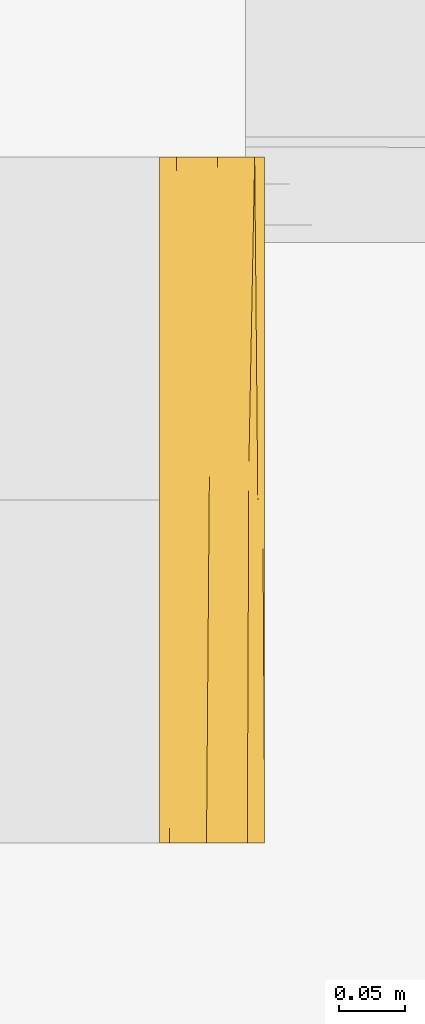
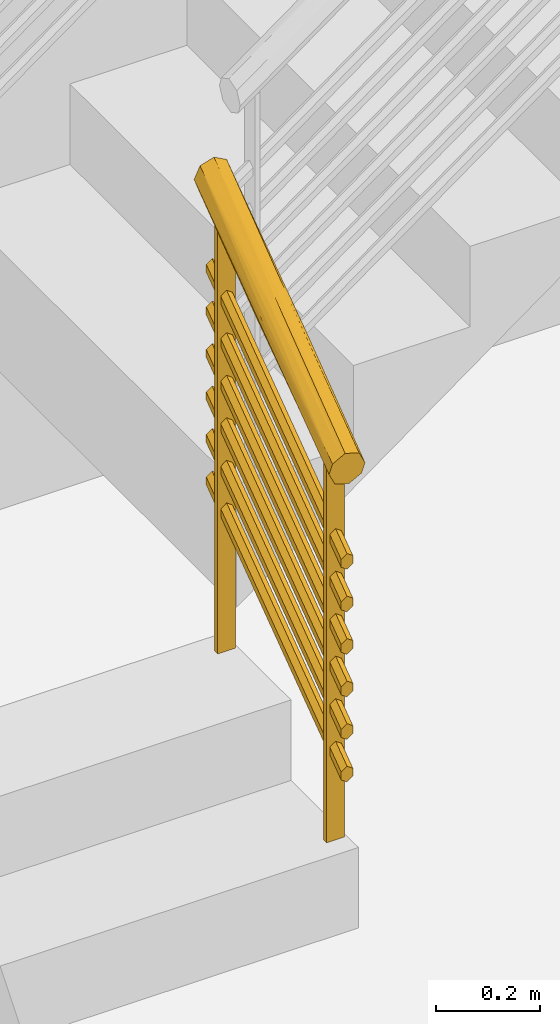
# One storey, part 16 of 20: 1 railing, 1 element without a shape of its own.
"""IFC2X3 building model written with IfcOpenShell, lengths in metres."""

from ifc_helpers import new_model, entity, si_unit, converted_unit, derived_unit, direction, frame, origin, place, context, subcontext, project, spatial, faceted_brep, element, aggregate, save


model = new_model("IFC2X3")

# Units and contexts
model_context = context("Model", 3, precision=1e-05, world=origin(), true_north=direction((6.12303176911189e-17, 1.0)))
body_context = subcontext(model_context, "Body", "Model", "MODEL_VIEW")
ifc_project = project(units=[si_unit("LENGTHUNIT", "METRE"), si_unit("AREAUNIT", "SQUARE_METRE"), si_unit("VOLUMEUNIT", "CUBIC_METRE"), converted_unit("PLANEANGLEUNIT", "DEGREE", entity("IfcRatioMeasure", 0.0174532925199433), si_unit("PLANEANGLEUNIT", "RADIAN"), dimensions=[0, 0, 0, 0, 0, 0, 0]), si_unit("MASSUNIT", "GRAM", prefix="KILO"), derived_unit("MASSDENSITYUNIT", [(si_unit("MASSUNIT", "GRAM", prefix="KILO"), 1), (si_unit("LENGTHUNIT", "METRE"), -3)]), derived_unit("MOMENTOFINERTIAUNIT", [(si_unit("LENGTHUNIT", "METRE"), 4)]), si_unit("TIMEUNIT", "SECOND"), si_unit("FREQUENCYUNIT", "HERTZ"), si_unit("THERMODYNAMICTEMPERATUREUNIT", "DEGREE_CELSIUS"), derived_unit("THERMALTRANSMITTANCEUNIT", [(si_unit("MASSUNIT", "GRAM", prefix="KILO"), 1), (si_unit("THERMODYNAMICTEMPERATUREUNIT", "KELVIN"), -1), (si_unit("TIMEUNIT", "SECOND"), -3)]), derived_unit("VOLUMETRICFLOWRATEUNIT", [(si_unit("LENGTHUNIT", "METRE"), 3), (si_unit("TIMEUNIT", "SECOND"), -1)]), si_unit("ELECTRICCURRENTUNIT", "AMPERE"), si_unit("ELECTRICVOLTAGEUNIT", "VOLT"), si_unit("POWERUNIT", "WATT"), si_unit("FORCEUNIT", "NEWTON", prefix="KILO"), si_unit("ILLUMINANCEUNIT", "LUX"), si_unit("LUMINOUSFLUXUNIT", "LUMEN"), si_unit("LUMINOUSINTENSITYUNIT", "CANDELA"), derived_unit("USERDEFINED", [(si_unit("MASSUNIT", "GRAM", prefix="KILO"), -1), (si_unit("LENGTHUNIT", "METRE"), -2), (si_unit("TIMEUNIT", "SECOND"), 3), (si_unit("LUMINOUSFLUXUNIT", "LUMEN"), 1)]), derived_unit("LINEARVELOCITYUNIT", [(si_unit("LENGTHUNIT", "METRE"), 1), (si_unit("TIMEUNIT", "SECOND"), -1)]), si_unit("PRESSUREUNIT", "PASCAL"), derived_unit("USERDEFINED", [(si_unit("LENGTHUNIT", "METRE"), -2), (si_unit("MASSUNIT", "GRAM", prefix="KILO"), 1), (si_unit("TIMEUNIT", "SECOND"), -2)]), derived_unit("LINEARFORCEUNIT", [(si_unit("MASSUNIT", "GRAM", prefix="KILO"), 1), (si_unit("LENGTHUNIT", "METRE"), 1), (si_unit("TIMEUNIT", "SECOND"), -2), (si_unit("LENGTHUNIT", "METRE"), -1)]), derived_unit("PLANARFORCEUNIT", [(si_unit("MASSUNIT", "GRAM", prefix="KILO"), 1), (si_unit("LENGTHUNIT", "METRE"), 1), (si_unit("TIMEUNIT", "SECOND"), -2), (si_unit("LENGTHUNIT", "METRE"), -2)])], contexts=[model_context])

# Site, building, storey
site_placement = place(None, origin())
site = spatial("IfcSite", under=ifc_project, at=site_placement, Name="Surface", CompositionType="ELEMENT")
building_placement = place(site_placement, origin())
building = spatial("IfcBuilding", under=site, at=building_placement, CompositionType="ELEMENT")
storey_placement = place(building_placement, origin())
storey = spatial("IfcBuildingStorey", under=building, at=storey_placement, Name="Niveau rdc", CompositionType="ELEMENT", Elevation=-1.94916083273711e-14)

# Stair, railing
stair_placement = place(storey_placement, origin())
stair = element("IfcStair", 1, at=stair_placement, inside=storey, Name="Escalier coulé sur place:Escalier", ObjectType="Escalier coulé sur place:Monobloc", ShapeType="NOTDEFINED")
railing_placement = place(stair_placement, frame((2.90498458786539, 5.44723837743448, 0.189285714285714)))
railing = element("IfcRailing", 2, at=railing_placement, Name="Garde-corps:Type Bateau", ObjectType="Garde-corps:Type Bateau", PredefinedType="NOTDEFINED", context=body_context, shape_type="Brep", body=[
    faceted_brep([(0.0215952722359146, 0.476000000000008, 1.20487235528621), (0.0215952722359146, 0.464000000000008, 1.20487235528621), (0.0615952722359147, 0.464000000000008, 1.20487235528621), (0.0615952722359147, 0.476000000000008, 1.20487235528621), (0.0215952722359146, 0.476000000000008, 0.189285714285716), (0.0615952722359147, 0.476000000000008, 0.189285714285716), (0.0615952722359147, 0.464000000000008, 0.189285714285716), (0.0215952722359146, 0.464000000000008, 0.189285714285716)], [[[0, 1, 2, 3]], [[4, 5, 6, 7]], [[1, 0, 4, 7]], [[2, 1, 7, 6]], [[3, 2, 6, 5]], [[0, 3, 5, 4]]]),
    faceted_brep([(0.0215952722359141, 0.0560000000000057, 0.899103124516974), (0.0215952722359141, 0.0440000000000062, 0.899103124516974), (0.0615952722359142, 0.0440000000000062, 0.899103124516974), (0.0615952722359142, 0.0560000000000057, 0.899103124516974), (0.0215952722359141, 0.0560000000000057, 0.0), (0.0615952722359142, 0.0560000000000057, 0.0), (0.0615952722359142, 0.0440000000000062, 0.0), (0.0215952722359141, 0.0440000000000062, 0.0)], [[[0, 1, 2, 3]], [[4, 5, 6, 7]], [[1, 0, 4, 7]], [[2, 1, 7, 6]], [[3, 2, 6, 5]], [[0, 3, 5, 4]]]),
    faceted_brep([(0.0545856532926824, 0.0, 0.672168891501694), (0.0545856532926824, 0.0, 0.676807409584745), (0.0545856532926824, 0.0, 0.681445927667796), (0.0545856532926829, 0.0, 0.686084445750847), (0.0545856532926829, 0.0, 0.690722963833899), (0.0513380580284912, 0.0, 0.693042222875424), (0.0480904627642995, 0.0, 0.69536148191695), (0.0448428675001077, 0.0, 0.697680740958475), (0.041595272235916, 0.0, 0.700000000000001), (0.0380732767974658, 0.0, 0.697484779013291), (0.0351000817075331, 0.0, 0.69536148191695), (0.0318524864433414, 0.0, 0.693042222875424), (0.0286048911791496, 0.0, 0.690722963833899), (0.0286048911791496, 0.0, 0.686084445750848), (0.0286048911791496, 0.0, 0.681445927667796), (0.0286048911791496, 0.0, 0.676807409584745), (0.0286048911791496, 0.0, 0.672168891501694), (0.0318524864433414, 0.0, 0.669849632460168), (0.0351000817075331, 0.0, 0.667530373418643), (0.0380732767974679, 0.0, 0.665407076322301), (0.041595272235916, 0.0, 0.662891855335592), (0.0451172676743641, 0.0, 0.665407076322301), (0.0486392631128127, 0.0, 0.667922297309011), (0.0516124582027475, 0.0, 0.670045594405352), (0.0383476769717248, 0.520000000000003, 1.04378254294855), (0.0351000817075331, 0.520000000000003, 1.04610180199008), (0.0318524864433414, 0.520000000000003, 1.0484210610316), (0.0286048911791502, 0.520000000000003, 1.05074032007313), (0.0286048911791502, 0.520000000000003, 1.05537883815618), (0.0286048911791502, 0.520000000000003, 1.06001735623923), (0.0286048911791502, 0.520000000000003, 1.06465587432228), (0.0286048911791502, 0.520000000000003, 1.06929439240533), (0.0315780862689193, 0.520000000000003, 1.07141768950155), (0.034551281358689, 0.520000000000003, 1.07354098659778), (0.0380732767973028, 0.520000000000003, 1.07605620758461), (0.0415952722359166, 0.520000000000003, 1.07857142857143), (0.0451172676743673, 0.520000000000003, 1.07605620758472), (0.0480904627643, 0.520000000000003, 1.07393291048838), (0.0513380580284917, 0.520000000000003, 1.07161365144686), (0.0545856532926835, 0.520000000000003, 1.06929439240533), (0.0545856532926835, 0.520000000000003, 1.06465587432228), (0.0545856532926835, 0.520000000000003, 1.06001735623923), (0.0545856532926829, 0.520000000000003, 1.05537883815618), (0.0545856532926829, 0.520000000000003, 1.05074032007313), (0.0513380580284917, 0.520000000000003, 1.0484210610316), (0.0480904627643, 0.520000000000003, 1.04610180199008), (0.0451172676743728, 0.520000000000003, 1.04397850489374), (0.0415952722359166, 0.520000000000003, 1.04146328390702)], [[[0, 1, 2, 3, 4, 5, 6, 7, 8, 9, 10, 11, 12, 13, 14, 15, 16, 17, 18, 19, 20, 21, 22, 23]], [[24, 25, 26, 27, 28, 29, 30, 31, 32, 33, 34, 35, 36, 37, 38, 39, 40, 41, 42, 43, 44, 45, 46, 47]], [[40, 39, 4, 3, 2, 1, 0, 43, 42, 41]], [[45, 44, 43, 0, 23, 22, 21, 20, 47, 46]], [[35, 8, 7, 6, 5, 4, 39, 38, 37, 36]], [[12, 11, 10, 9, 8, 35, 34, 33, 32, 31]], [[18, 17, 16, 27, 26, 25, 24, 47, 20, 19]], [[15, 14, 13, 12, 31, 30, 29, 28, 27, 16]]]),
    faceted_brep([(0.0545856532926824, 0.0, 0.572168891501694), (0.0545856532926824, 0.0, 0.576807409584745), (0.0545856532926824, 0.0, 0.581445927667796), (0.0545856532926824, 0.0, 0.586084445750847), (0.0545856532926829, 0.0, 0.590722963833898), (0.0513380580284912, 0.0, 0.593042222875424), (0.0480904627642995, 0.0, 0.59536148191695), (0.0448428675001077, 0.0, 0.597680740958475), (0.041595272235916, 0.0, 0.600000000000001), (0.0380732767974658, 0.0, 0.59748477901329), (0.0351000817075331, 0.0, 0.59536148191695), (0.0318524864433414, 0.0, 0.593042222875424), (0.0286048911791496, 0.0, 0.590722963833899), (0.0286048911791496, 0.0, 0.586084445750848), (0.0286048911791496, 0.0, 0.581445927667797), (0.0286048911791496, 0.0, 0.576807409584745), (0.0286048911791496, 0.0, 0.572168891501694), (0.0318524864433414, 0.0, 0.569849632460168), (0.0351000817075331, 0.0, 0.567530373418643), (0.0380732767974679, 0.0, 0.565407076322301), (0.041595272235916, 0.0, 0.562891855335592), (0.0451172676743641, 0.0, 0.565407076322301), (0.0486392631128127, 0.0, 0.567922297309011), (0.0516124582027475, 0.0, 0.570045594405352), (0.0383476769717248, 0.520000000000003, 0.943782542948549), (0.0351000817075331, 0.520000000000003, 0.946101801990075), (0.0318524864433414, 0.520000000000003, 0.948421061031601), (0.0286048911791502, 0.520000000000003, 0.950740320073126), (0.0286048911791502, 0.520000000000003, 0.955378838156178), (0.0286048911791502, 0.520000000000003, 0.960017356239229), (0.0286048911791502, 0.520000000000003, 0.96465587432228), (0.0286048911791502, 0.520000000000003, 0.969294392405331), (0.0315780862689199, 0.520000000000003, 0.971417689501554), (0.034551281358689, 0.520000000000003, 0.973540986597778), (0.0380732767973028, 0.520000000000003, 0.976056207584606), (0.0415952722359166, 0.520000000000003, 0.978571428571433), (0.0451172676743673, 0.520000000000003, 0.976056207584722), (0.0480904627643, 0.520000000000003, 0.973932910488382), (0.0513380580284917, 0.520000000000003, 0.971613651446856), (0.0545856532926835, 0.520000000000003, 0.969294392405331), (0.0545856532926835, 0.520000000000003, 0.964655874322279), (0.0545856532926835, 0.520000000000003, 0.960017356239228), (0.0545856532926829, 0.520000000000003, 0.955378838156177), (0.0545856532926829, 0.520000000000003, 0.950740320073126), (0.0513380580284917, 0.520000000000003, 0.948421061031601), (0.0480904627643, 0.520000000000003, 0.946101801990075), (0.0451172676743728, 0.520000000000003, 0.943978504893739), (0.0415952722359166, 0.520000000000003, 0.941463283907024)], [[[0, 1, 2, 3, 4, 5, 6, 7, 8, 9, 10, 11, 12, 13, 14, 15, 16, 17, 18, 19, 20, 21, 22, 23]], [[24, 25, 26, 27, 28, 29, 30, 31, 32, 33, 34, 35, 36, 37, 38, 39, 40, 41, 42, 43, 44, 45, 46, 47]], [[40, 39, 4, 3, 2, 1, 0, 43, 42, 41]], [[45, 44, 43, 0, 23, 22, 21, 20, 47, 46]], [[35, 8, 7, 6, 5, 4, 39, 38, 37, 36]], [[12, 11, 10, 9, 8, 35, 34, 33, 32, 31]], [[18, 17, 16, 27, 26, 25, 24, 47, 20, 19]], [[15, 14, 13, 12, 31, 30, 29, 28, 27, 16]]]),
    faceted_brep([(0.0545856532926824, 0.0, 0.472168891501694), (0.0545856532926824, 0.0, 0.476807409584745), (0.0545856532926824, 0.0, 0.481445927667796), (0.0545856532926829, 0.0, 0.486084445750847), (0.0545856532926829, 0.0, 0.490722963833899), (0.0513380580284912, 0.0, 0.493042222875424), (0.0480904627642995, 0.0, 0.49536148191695), (0.0448428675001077, 0.0, 0.497680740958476), (0.041595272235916, 0.0, 0.500000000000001), (0.0380732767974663, 0.0, 0.497484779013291), (0.0351000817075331, 0.0, 0.49536148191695), (0.0318524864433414, 0.0, 0.493042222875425), (0.0286048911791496, 0.0, 0.490722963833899), (0.0286048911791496, 0.0, 0.486084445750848), (0.0286048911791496, 0.0, 0.481445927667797), (0.0286048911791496, 0.0, 0.476807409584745), (0.0286048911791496, 0.0, 0.472168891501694), (0.0318524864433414, 0.0, 0.469849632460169), (0.0351000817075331, 0.0, 0.467530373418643), (0.0380732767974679, 0.0, 0.465407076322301), (0.041595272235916, 0.0, 0.462891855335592), (0.0451172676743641, 0.0, 0.465407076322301), (0.0486392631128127, 0.0, 0.467922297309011), (0.0516124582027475, 0.0, 0.470045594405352), (0.0383476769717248, 0.520000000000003, 0.84378254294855), (0.0351000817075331, 0.520000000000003, 0.846101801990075), (0.0318524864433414, 0.520000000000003, 0.848421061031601), (0.0286048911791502, 0.520000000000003, 0.850740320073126), (0.0286048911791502, 0.520000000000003, 0.855378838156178), (0.0286048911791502, 0.520000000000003, 0.860017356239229), (0.0286048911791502, 0.520000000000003, 0.86465587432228), (0.0286048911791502, 0.520000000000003, 0.869294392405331), (0.0315780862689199, 0.520000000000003, 0.871417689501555), (0.034551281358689, 0.520000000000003, 0.873540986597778), (0.0380732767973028, 0.520000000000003, 0.876056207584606), (0.0415952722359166, 0.520000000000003, 0.878571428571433), (0.0451172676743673, 0.520000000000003, 0.876056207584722), (0.0480904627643, 0.520000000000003, 0.873932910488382), (0.0513380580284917, 0.520000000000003, 0.871613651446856), (0.0545856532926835, 0.520000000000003, 0.869294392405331), (0.0545856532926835, 0.520000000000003, 0.86465587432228), (0.0545856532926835, 0.520000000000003, 0.860017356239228), (0.0545856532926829, 0.520000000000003, 0.855378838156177), (0.0545856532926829, 0.520000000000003, 0.850740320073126), (0.0513380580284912, 0.520000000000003, 0.848421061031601), (0.0480904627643, 0.520000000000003, 0.846101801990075), (0.0451172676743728, 0.520000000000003, 0.843978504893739), (0.0415952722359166, 0.520000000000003, 0.841463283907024)], [[[0, 1, 2, 3, 4, 5, 6, 7, 8, 9, 10, 11, 12, 13, 14, 15, 16, 17, 18, 19, 20, 21, 22, 23]], [[24, 25, 26, 27, 28, 29, 30, 31, 32, 33, 34, 35, 36, 37, 38, 39, 40, 41, 42, 43, 44, 45, 46, 47]], [[40, 39, 4, 3, 2, 1, 0, 43, 42, 41]], [[45, 44, 43, 0, 23, 22, 21, 20, 47, 46]], [[35, 8, 7, 6, 5, 4, 39, 38, 37, 36]], [[12, 11, 10, 9, 8, 35, 34, 33, 32, 31]], [[18, 17, 16, 27, 26, 25, 24, 47, 20, 19]], [[15, 14, 13, 12, 31, 30, 29, 28, 27, 16]]]),
    faceted_brep([(0.0545856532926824, 0.0, 0.372168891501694), (0.0545856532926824, 0.0, 0.376807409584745), (0.0545856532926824, 0.0, 0.381445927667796), (0.0545856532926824, 0.0, 0.386084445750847), (0.0545856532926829, 0.0, 0.390722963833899), (0.0513380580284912, 0.0, 0.393042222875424), (0.0480904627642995, 0.0, 0.39536148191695), (0.0448428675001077, 0.0, 0.397680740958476), (0.041595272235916, 0.0, 0.400000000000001), (0.0380732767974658, 0.0, 0.397484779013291), (0.0351000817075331, 0.0, 0.39536148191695), (0.0318524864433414, 0.0, 0.393042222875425), (0.0286048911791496, 0.0, 0.390722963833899), (0.0286048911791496, 0.0, 0.386084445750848), (0.0286048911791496, 0.0, 0.381445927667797), (0.0286048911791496, 0.0, 0.376807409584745), (0.0286048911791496, 0.0, 0.372168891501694), (0.0318524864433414, 0.0, 0.369849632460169), (0.0351000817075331, 0.0, 0.367530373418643), (0.0380732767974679, 0.0, 0.365407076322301), (0.041595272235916, 0.0, 0.362891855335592), (0.0451172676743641, 0.0, 0.365407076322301), (0.0486392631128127, 0.0, 0.367922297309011), (0.0516124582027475, 0.0, 0.370045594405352), (0.0383476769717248, 0.520000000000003, 0.74378254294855), (0.0351000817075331, 0.520000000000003, 0.746101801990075), (0.0318524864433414, 0.520000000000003, 0.748421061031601), (0.0286048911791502, 0.520000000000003, 0.750740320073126), (0.0286048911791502, 0.520000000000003, 0.755378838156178), (0.0286048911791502, 0.520000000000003, 0.760017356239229), (0.0286048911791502, 0.520000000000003, 0.76465587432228), (0.0286048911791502, 0.520000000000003, 0.769294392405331), (0.0315780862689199, 0.520000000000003, 0.771417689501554), (0.034551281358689, 0.520000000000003, 0.773540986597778), (0.0380732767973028, 0.520000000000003, 0.776056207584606), (0.0415952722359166, 0.520000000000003, 0.778571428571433), (0.0451172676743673, 0.520000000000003, 0.776056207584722), (0.0480904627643, 0.520000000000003, 0.773932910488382), (0.0513380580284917, 0.520000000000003, 0.771613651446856), (0.0545856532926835, 0.520000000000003, 0.769294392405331), (0.0545856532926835, 0.520000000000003, 0.76465587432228), (0.0545856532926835, 0.520000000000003, 0.760017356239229), (0.0545856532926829, 0.520000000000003, 0.755378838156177), (0.0545856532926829, 0.520000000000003, 0.750740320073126), (0.0513380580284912, 0.520000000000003, 0.748421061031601), (0.0480904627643, 0.520000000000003, 0.746101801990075), (0.0451172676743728, 0.520000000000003, 0.743978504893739), (0.0415952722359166, 0.520000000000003, 0.741463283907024)], [[[0, 1, 2, 3, 4, 5, 6, 7, 8, 9, 10, 11, 12, 13, 14, 15, 16, 17, 18, 19, 20, 21, 22, 23]], [[24, 25, 26, 27, 28, 29, 30, 31, 32, 33, 34, 35, 36, 37, 38, 39, 40, 41, 42, 43, 44, 45, 46, 47]], [[40, 39, 4, 3, 2, 1, 0, 43, 42, 41]], [[45, 44, 43, 0, 23, 22, 21, 20, 47, 46]], [[35, 8, 7, 6, 5, 4, 39, 38, 37, 36]], [[12, 11, 10, 9, 8, 35, 34, 33, 32, 31]], [[18, 17, 16, 27, 26, 25, 24, 47, 20, 19]], [[15, 14, 13, 12, 31, 30, 29, 28, 27, 16]]]),
    faceted_brep([(0.0545856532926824, 0.0, 0.272168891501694), (0.0545856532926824, 0.0, 0.276807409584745), (0.0545856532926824, 0.0, 0.281445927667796), (0.0545856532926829, 0.0, 0.286084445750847), (0.0545856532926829, 0.0, 0.290722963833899), (0.0513380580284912, 0.0, 0.293042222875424), (0.0480904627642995, 0.0, 0.29536148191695), (0.0448428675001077, 0.0, 0.297680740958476), (0.041595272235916, 0.0, 0.300000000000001), (0.0380732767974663, 0.0, 0.297484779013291), (0.0351000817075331, 0.0, 0.29536148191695), (0.0318524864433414, 0.0, 0.293042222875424), (0.0286048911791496, 0.0, 0.290722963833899), (0.0286048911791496, 0.0, 0.286084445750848), (0.0286048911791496, 0.0, 0.281445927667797), (0.0286048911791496, 0.0, 0.276807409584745), (0.0286048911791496, 0.0, 0.272168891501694), (0.0318524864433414, 0.0, 0.269849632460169), (0.0351000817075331, 0.0, 0.267530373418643), (0.0380732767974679, 0.0, 0.265407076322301), (0.041595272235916, 0.0, 0.262891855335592), (0.0451172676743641, 0.0, 0.265407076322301), (0.0486392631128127, 0.0, 0.267922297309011), (0.0516124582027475, 0.0, 0.270045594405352), (0.0383476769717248, 0.520000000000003, 0.643782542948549), (0.0351000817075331, 0.520000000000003, 0.646101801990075), (0.0318524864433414, 0.520000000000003, 0.648421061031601), (0.0286048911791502, 0.520000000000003, 0.650740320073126), (0.0286048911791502, 0.520000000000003, 0.655378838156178), (0.0286048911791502, 0.520000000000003, 0.660017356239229), (0.0286048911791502, 0.520000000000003, 0.66465587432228), (0.0286048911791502, 0.520000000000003, 0.669294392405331), (0.0315780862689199, 0.520000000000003, 0.671417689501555), (0.034551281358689, 0.520000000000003, 0.673540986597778), (0.0380732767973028, 0.520000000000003, 0.676056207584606), (0.0415952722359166, 0.520000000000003, 0.678571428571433), (0.0451172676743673, 0.520000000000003, 0.676056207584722), (0.0480904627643, 0.520000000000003, 0.673932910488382), (0.0513380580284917, 0.520000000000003, 0.671613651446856), (0.0545856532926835, 0.520000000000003, 0.669294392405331), (0.0545856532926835, 0.520000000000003, 0.66465587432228), (0.0545856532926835, 0.520000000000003, 0.660017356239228), (0.0545856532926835, 0.520000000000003, 0.655378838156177), (0.0545856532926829, 0.520000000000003, 0.650740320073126), (0.0513380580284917, 0.520000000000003, 0.648421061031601), (0.0480904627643, 0.520000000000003, 0.646101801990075), (0.0451172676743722, 0.520000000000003, 0.643978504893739), (0.0415952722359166, 0.520000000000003, 0.641463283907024)], [[[0, 1, 2, 3, 4, 5, 6, 7, 8, 9, 10, 11, 12, 13, 14, 15, 16, 17, 18, 19, 20, 21, 22, 23]], [[24, 25, 26, 27, 28, 29, 30, 31, 32, 33, 34, 35, 36, 37, 38, 39, 40, 41, 42, 43, 44, 45, 46, 47]], [[40, 39, 4, 3, 2, 1, 0, 43, 42, 41]], [[45, 44, 43, 0, 23, 22, 21, 20, 47, 46]], [[35, 8, 7, 6, 5, 4, 39, 38, 37, 36]], [[12, 11, 10, 9, 8, 35, 34, 33, 32, 31]], [[18, 17, 16, 27, 26, 25, 24, 47, 20, 19]], [[15, 14, 13, 12, 31, 30, 29, 28, 27, 16]]]),
    faceted_brep([(0.0545856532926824, 0.0, 0.172168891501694), (0.0545856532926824, 0.0, 0.176807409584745), (0.0545856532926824, 0.0, 0.181445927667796), (0.0545856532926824, 0.0, 0.186084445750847), (0.0545856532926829, 0.0, 0.190722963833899), (0.0513380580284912, 0.0, 0.193042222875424), (0.0480904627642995, 0.0, 0.19536148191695), (0.0448428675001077, 0.0, 0.197680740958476), (0.041595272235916, 0.0, 0.200000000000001), (0.0380732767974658, 0.0, 0.197484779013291), (0.0351000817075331, 0.0, 0.19536148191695), (0.0318524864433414, 0.0, 0.193042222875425), (0.0286048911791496, 0.0, 0.190722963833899), (0.0286048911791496, 0.0, 0.186084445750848), (0.0286048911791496, 0.0, 0.181445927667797), (0.0286048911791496, 0.0, 0.176807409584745), (0.0286048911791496, 0.0, 0.172168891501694), (0.0318524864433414, 0.0, 0.169849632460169), (0.0351000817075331, 0.0, 0.167530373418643), (0.0380732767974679, 0.0, 0.165407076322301), (0.041595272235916, 0.0, 0.162891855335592), (0.0451172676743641, 0.0, 0.165407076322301), (0.0486392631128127, 0.0, 0.167922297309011), (0.0516124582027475, 0.0, 0.170045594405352), (0.0383476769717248, 0.520000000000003, 0.54378254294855), (0.0351000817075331, 0.520000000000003, 0.546101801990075), (0.0318524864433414, 0.520000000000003, 0.548421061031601), (0.0286048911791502, 0.520000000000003, 0.550740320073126), (0.0286048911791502, 0.520000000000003, 0.555378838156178), (0.0286048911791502, 0.520000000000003, 0.560017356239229), (0.0286048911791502, 0.520000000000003, 0.56465587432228), (0.0286048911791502, 0.520000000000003, 0.569294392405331), (0.0315780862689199, 0.520000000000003, 0.571417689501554), (0.034551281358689, 0.520000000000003, 0.573540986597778), (0.0380732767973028, 0.520000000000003, 0.576056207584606), (0.0415952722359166, 0.520000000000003, 0.578571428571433), (0.0451172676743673, 0.520000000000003, 0.576056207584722), (0.0480904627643, 0.520000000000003, 0.573932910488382), (0.0513380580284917, 0.520000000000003, 0.571613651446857), (0.0545856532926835, 0.520000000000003, 0.569294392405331), (0.0545856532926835, 0.520000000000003, 0.56465587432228), (0.0545856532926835, 0.520000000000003, 0.560017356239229), (0.0545856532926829, 0.520000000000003, 0.555378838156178), (0.0545856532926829, 0.520000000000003, 0.550740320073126), (0.0513380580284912, 0.520000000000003, 0.548421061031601), (0.0480904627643, 0.520000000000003, 0.546101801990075), (0.0451172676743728, 0.520000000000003, 0.543978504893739), (0.0415952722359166, 0.520000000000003, 0.541463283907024)], [[[0, 1, 2, 3, 4, 5, 6, 7, 8, 9, 10, 11, 12, 13, 14, 15, 16, 17, 18, 19, 20, 21, 22, 23]], [[24, 25, 26, 27, 28, 29, 30, 31, 32, 33, 34, 35, 36, 37, 38, 39, 40, 41, 42, 43, 44, 45, 46, 47]], [[40, 39, 4, 3, 2, 1, 0, 43, 42, 41]], [[45, 44, 43, 0, 23, 22, 21, 20, 47, 46]], [[35, 8, 7, 6, 5, 4, 39, 38, 37, 36]], [[12, 11, 10, 9, 8, 35, 34, 33, 32, 31]], [[18, 17, 16, 27, 26, 25, 24, 47, 20, 19]], [[15, 14, 13, 12, 31, 30, 29, 28, 27, 16]]]),
    faceted_brep([(0.0683604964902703, 0.0, 0.927576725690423), (0.0528873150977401, 0.0, 0.932240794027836), (0.03741413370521, 0.0, 0.93690486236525), (0.0303692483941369, 0.0, 0.933131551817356), (0.0233243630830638, 0.0, 0.929358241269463), (0.00923459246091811, 0.0, 0.921811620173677), (0.00541493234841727, 0.0, 0.910905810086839), (0.0015952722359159, 0.0, 0.900000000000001), (0.0082126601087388, 0.0, 0.88621163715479), (0.0148300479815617, 0.0, 0.872423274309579), (0.0303032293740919, 0.0, 0.867759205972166), (0.0457764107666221, 0.0, 0.863095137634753), (0.0598661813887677, 0.0, 0.870641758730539), (0.0669110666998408, 0.0, 0.874415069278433), (0.0739559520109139, 0.0, 0.878188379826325), (0.0777756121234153, 0.0, 0.889094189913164), (0.0815952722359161, 0.0, 0.900000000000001), (0.0749778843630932, 0.0, 0.913788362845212), (0.071669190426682, 0.0, 0.920682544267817), (0.0457764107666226, 0.520000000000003, 1.31547629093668), (0.0598661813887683, 0.520000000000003, 1.3079296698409), (0.0739559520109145, 0.520000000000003, 1.30038304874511), (0.0777756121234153, 0.520000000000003, 1.28947723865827), (0.0815952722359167, 0.520000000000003, 1.27857142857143), (0.0749778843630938, 0.520000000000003, 1.26478306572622), (0.0683604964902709, 0.520000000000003, 1.25099470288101), (0.0528873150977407, 0.520000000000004, 1.2463306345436), (0.0374141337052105, 0.520000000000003, 1.24166656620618), (0.0233243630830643, 0.520000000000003, 1.24921318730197), (0.0162794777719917, 0.520000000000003, 1.25298649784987), (0.00923459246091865, 0.520000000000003, 1.25675980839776), (0.00541493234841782, 0.520000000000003, 1.2676656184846), (0.00159527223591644, 0.520000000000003, 1.27857142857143), (0.00821266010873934, 0.520000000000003, 1.29235979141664), (0.0148300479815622, 0.520000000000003, 1.30614815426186), (0.0303032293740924, 0.520000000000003, 1.31081222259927), (0.00573778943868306, 0.28205757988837, 1.08889886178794), (0.0650397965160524, 0.261658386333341, 1.06042695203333), (0.0551768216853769, 0.230325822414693, 1.03277863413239), (0.0444162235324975, 0.290782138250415, 1.0746800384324), (0.0232692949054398, 0.236274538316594, 1.03902854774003), (0.0337356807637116, 0.255762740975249, 1.0498161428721), (0.0730300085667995, 0.288204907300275, 1.08687206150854), (0.0782813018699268, 0.251688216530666, 1.06844545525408), (0.0815952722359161, 0.290156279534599, 1.11124014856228), (0.0815952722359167, 0.229843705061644, 1.06733126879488), (0.0015952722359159, 0.290156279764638, 1.11124014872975), (0.00159527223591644, 0.229843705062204, 1.06733126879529), (0.0118140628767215, 0.259139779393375, 1.06388647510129), (0.0763119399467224, 0.261339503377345, 1.1086928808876), (0.0695486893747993, 0.287127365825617, 1.13557783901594), (0.0606408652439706, 0.225349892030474, 1.09669144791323), (0.0505849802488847, 0.266718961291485, 1.13033611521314), (0.0252502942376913, 0.259437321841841, 1.12274477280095), (0.0157936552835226, 0.228324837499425, 1.09458163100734), (0.0396253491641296, 0.281374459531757, 1.14190990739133), (0.0802717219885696, 0.221328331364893, 1.07059865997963), (0.00846883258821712, 0.289879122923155, 1.13183712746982), (0.00386713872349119, 0.266059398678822, 1.10602500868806)], [[[0, 1, 2, 3, 4, 5, 6, 7, 8, 9, 10, 11, 12, 13, 14, 15, 16, 17, 18]], [[19, 20, 21, 22, 23, 24, 25, 26, 27, 28, 29, 30, 31, 32, 33, 34, 35]], [[30, 36, 31]], [[26, 37, 38]], [[39, 38, 11]], [[10, 40, 41]], [[40, 28, 41]], [[13, 12, 37]], [[25, 42, 37]], [[43, 23, 44, 45]], [[37, 12, 38]], [[39, 11, 41]], [[14, 43, 15]], [[36, 8, 46]], [[8, 7, 47, 46]], [[37, 42, 13]], [[29, 48, 30]], [[43, 24, 23]], [[37, 26, 25]], [[13, 42, 14]], [[42, 25, 24]], [[42, 24, 43]], [[27, 26, 39]], [[38, 12, 11]], [[45, 16, 15]], [[38, 39, 26]], [[27, 39, 41]], [[27, 41, 28]], [[10, 41, 11]], [[29, 28, 40]], [[40, 10, 9]], [[40, 9, 48]], [[40, 48, 29]], [[48, 9, 8]], [[8, 36, 48]], [[46, 32, 31]], [[42, 43, 14]], [[15, 43, 45]], [[48, 36, 30]], [[31, 36, 46]], [[17, 49, 18]], [[49, 50, 18]], [[20, 51, 50]], [[52, 51, 20]], [[53, 34, 54]], [[55, 2, 52]], [[4, 53, 54]], [[56, 44, 22]], [[21, 50, 49]], [[44, 23, 22]], [[4, 3, 53]], [[57, 58, 5]], [[34, 57, 54]], [[58, 47, 6]], [[1, 0, 51]], [[18, 50, 0]], [[17, 16, 56]], [[19, 55, 52]], [[22, 21, 49]], [[17, 56, 49]], [[50, 21, 20]], [[49, 56, 22]], [[56, 16, 45, 44]], [[50, 51, 0]], [[1, 51, 52]], [[1, 52, 2]], [[19, 52, 20]], [[3, 2, 55]], [[55, 19, 35]], [[55, 35, 53]], [[55, 53, 3]], [[53, 35, 34]], [[54, 5, 4]], [[5, 54, 57]], [[58, 6, 5]], [[33, 57, 34]], [[32, 58, 33]], [[57, 33, 58]], [[47, 7, 6]], [[58, 32, 46, 47]]]),
])
aggregate(stair, [railing])

save(model, "model.ifc")
